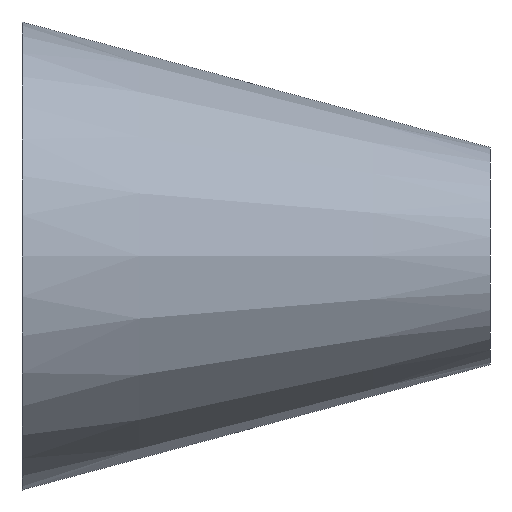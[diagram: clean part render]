
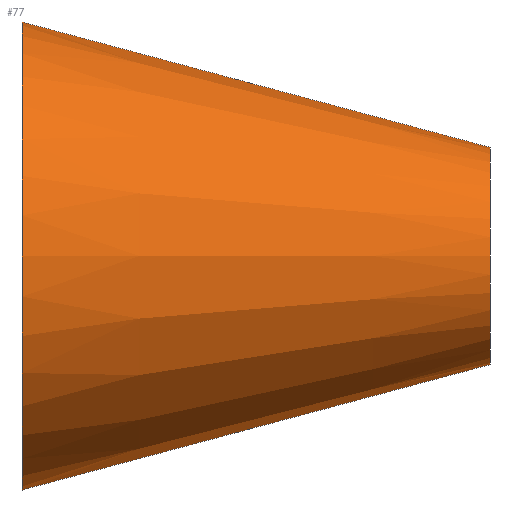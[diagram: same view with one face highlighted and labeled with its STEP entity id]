
A CAD part, left-side view. The second image highlights one B-rep face of the part: STEP entity #77.
In plain terms, the highlighted conical face has half-angle 15 degrees and reference radius 14.641 mm.
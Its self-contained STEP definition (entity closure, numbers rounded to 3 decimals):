
#7=DIRECTION('',(0.,-0.966,-0.259));
#8=VECTOR('',#7,41.411);
#9=CARTESIAN_POINT('',(0.,78.,28.));
#10=LINE('',#9,#8);
#11=DIRECTION('',(0.,-0.966,0.259));
#12=VECTOR('',#11,41.411);
#13=CARTESIAN_POINT('',(0.,78.,-12.));
#14=LINE('',#13,#12);
#15=CARTESIAN_POINT('',(0.,78.,8.));
#16=DIRECTION('',(0.,-1.,0.));
#17=DIRECTION('',(0.,0.,1.));
#18=AXIS2_PLACEMENT_3D('',#15,#16,#17);
#20=CARTESIAN_POINT('',(0.,38.,8.));
#21=DIRECTION('',(0.,-1.,0.));
#22=DIRECTION('',(0.,0.,1.));
#23=AXIS2_PLACEMENT_3D('',#20,#21,#22);
#30=CARTESIAN_POINT('',(0.,78.,28.));
#31=CARTESIAN_POINT('',(0.,38.,17.282));
#32=VERTEX_POINT('',#30);
#33=VERTEX_POINT('',#31);
#34=CARTESIAN_POINT('',(0.,78.,-12.));
#35=CARTESIAN_POINT('',(0.,38.,-1.282));
#36=VERTEX_POINT('',#34);
#37=VERTEX_POINT('',#35);
#65=CARTESIAN_POINT('',(0.,58.,8.));
#66=DIRECTION('',(0.,1.,0.));
#67=DIRECTION('',(0.,0.,-1.));
#68=AXIS2_PLACEMENT_3D('',#65,#66,#67);
#69=CONICAL_SURFACE('',#68,14.641,15.);
#70=ORIENTED_EDGE('',*,*,#55,.T.);
#72=ORIENTED_EDGE('',*,*,#71,.T.);
#73=ORIENTED_EDGE('',*,*,#58,.F.);
#74=ORIENTED_EDGE('',*,*,#45,.F.);
#75=EDGE_LOOP('',(#70,#72,#73,#74));
#76=FACE_OUTER_BOUND('',#75,.F.);
#77=ADVANCED_FACE('',(#76),#69,.T.);
#19=CIRCLE('',#18,20.);
#24=CIRCLE('',#23,9.282);
#45=EDGE_CURVE('',#32,#36,#19,.T.);
#55=EDGE_CURVE('',#32,#33,#10,.T.);
#58=EDGE_CURVE('',#36,#37,#14,.T.);
#71=EDGE_CURVE('',#33,#37,#24,.T.);
